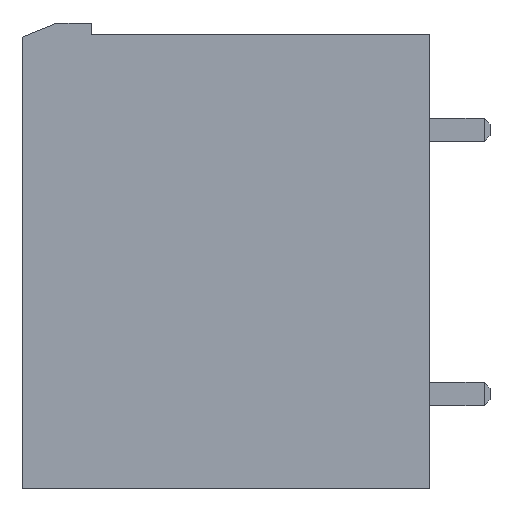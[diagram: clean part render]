
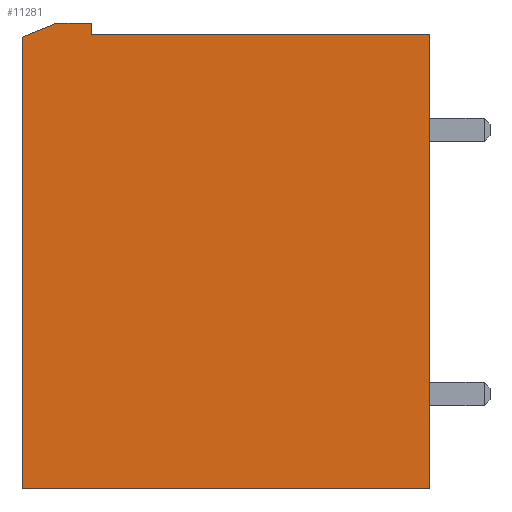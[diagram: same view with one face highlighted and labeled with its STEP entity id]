
A CAD part, left-side view. The second image highlights one B-rep face of the part: STEP entity #11281.
In plain terms, the highlighted planar face has unit normal (-1, 0, 0).
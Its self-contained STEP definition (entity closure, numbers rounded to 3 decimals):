
#903=DIRECTION('',(0.,0.,1.));
#904=VECTOR('',#903,19.6);
#905=CARTESIAN_POINT('',(-20.,0.,-8.7));
#906=LINE('',#905,#904);
#1027=DIRECTION('',(0.,0.,1.));
#1028=VECTOR('',#1027,0.5);
#1029=CARTESIAN_POINT('',(-20.,14.6,10.9));
#1030=LINE('',#1029,#1028);
#1047=DIRECTION('',(0.,1.,0.));
#1048=VECTOR('',#1047,1.5);
#1049=CARTESIAN_POINT('',(-20.,14.6,11.4));
#1050=LINE('',#1049,#1048);
#1516=DIRECTION('',(0.,0.,-1.));
#1517=VECTOR('',#1516,19.5);
#1518=CARTESIAN_POINT('',(-20.,17.6,10.8));
#1519=LINE('',#1518,#1517);
#2344=DIRECTION('',(0.,-0.928,0.371));
#2345=VECTOR('',#2344,1.616);
#2346=CARTESIAN_POINT('',(-20.,17.6,10.8));
#2347=LINE('',#2346,#2345);
#2348=DIRECTION('',(0.,-1.,0.));
#2349=VECTOR('',#2348,14.6);
#2350=CARTESIAN_POINT('',(-20.,14.6,10.9));
#2351=LINE('',#2350,#2349);
#2352=DIRECTION('',(0.,1.,0.));
#2353=VECTOR('',#2352,17.6);
#2354=CARTESIAN_POINT('',(-20.,0.,-8.7));
#2355=LINE('',#2354,#2353);
#6538=CARTESIAN_POINT('',(-20.,0.,10.9));
#6540=VERTEX_POINT('',#6538);
#6546=CARTESIAN_POINT('',(-20.,0.,-8.7));
#6547=VERTEX_POINT('',#6546);
#6653=CARTESIAN_POINT('',(-20.,14.6,10.9));
#6655=VERTEX_POINT('',#6653);
#6657=CARTESIAN_POINT('',(-20.,14.6,11.4));
#6659=VERTEX_POINT('',#6657);
#6668=CARTESIAN_POINT('',(-20.,16.1,11.4));
#6669=VERTEX_POINT('',#6668);
#6745=CARTESIAN_POINT('',(-20.,17.6,-8.7));
#6747=VERTEX_POINT('',#6745);
#6797=CARTESIAN_POINT('',(-20.,17.6,10.8));
#6798=VERTEX_POINT('',#6797);
#11267=CARTESIAN_POINT('',(-20.,17.6,11.4));
#11268=DIRECTION('',(-1.,0.,0.));
#11269=DIRECTION('',(0.,-1.,0.));
#11270=AXIS2_PLACEMENT_3D('',#11267,#11268,#11269);
#11271=PLANE('',#11270);
#11272=ORIENTED_EDGE('',*,*,#10413,.F.);
#11273=ORIENTED_EDGE('',*,*,#11260,.T.);
#11274=ORIENTED_EDGE('',*,*,#9987,.F.);
#11275=ORIENTED_EDGE('',*,*,#9968,.F.);
#11276=ORIENTED_EDGE('',*,*,#9953,.T.);
#11277=ORIENTED_EDGE('',*,*,#9814,.F.);
#11278=ORIENTED_EDGE('',*,*,#8849,.T.);
#11279=EDGE_LOOP('',(#11272,#11273,#11274,#11275,#11276,#11277,#11278));
#11280=FACE_OUTER_BOUND('',#11279,.F.);
#11281=ADVANCED_FACE('',(#11280),#11271,.T.);
#8849=EDGE_CURVE('',#6547,#6747,#2355,.T.);
#9814=EDGE_CURVE('',#6547,#6540,#906,.T.);
#9953=EDGE_CURVE('',#6655,#6540,#2351,.T.);
#9968=EDGE_CURVE('',#6655,#6659,#1030,.T.);
#9987=EDGE_CURVE('',#6659,#6669,#1050,.T.);
#10413=EDGE_CURVE('',#6798,#6747,#1519,.T.);
#11260=EDGE_CURVE('',#6798,#6669,#2347,.T.);
